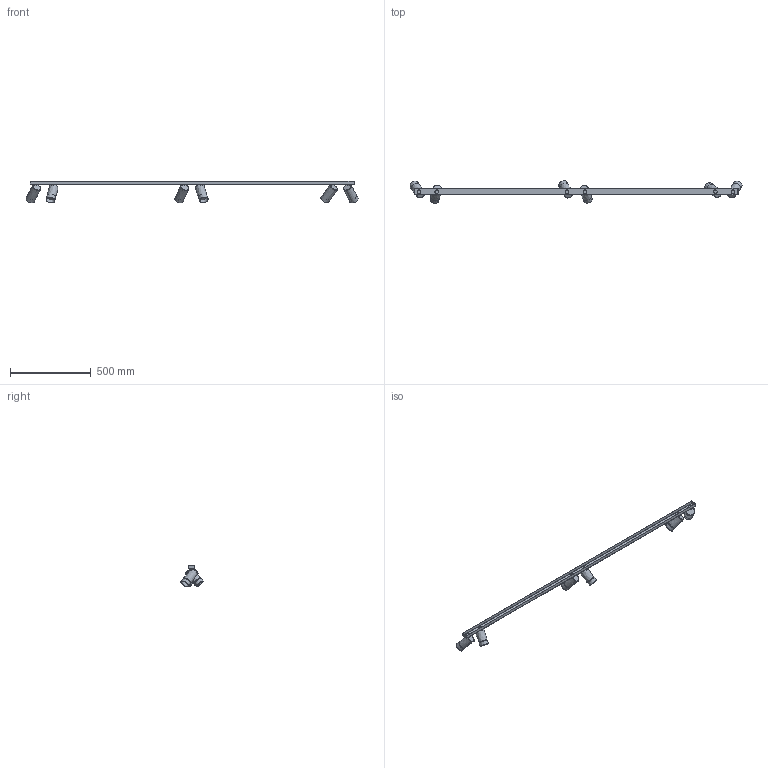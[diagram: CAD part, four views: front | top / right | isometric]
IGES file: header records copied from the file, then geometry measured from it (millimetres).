
Start section: SolidWorks IGES file using NURBS representation for surfaces
Global section: file name: Z:\Modele 3D_WWW\_KOLEKCJE_WWW\MONO\MONO-BELKA\7785\MONO-VI-BRASS-7785.IGS; native system: SolidWorks 2021; preprocessor: SolidWorks 2021; author: gabriela.tworek; date: 220119.113443; units: millimetre
Bounding box: 2049.76 x 137.72 x 135.44 mm (x, y, z)
Surface area: 587051.6 mm2 (no closed solid volume)
Topology: 0 solids, 0 shells, 284 faces, 1726 edges, 1696 vertices
Faces by surface type: bspline 284
